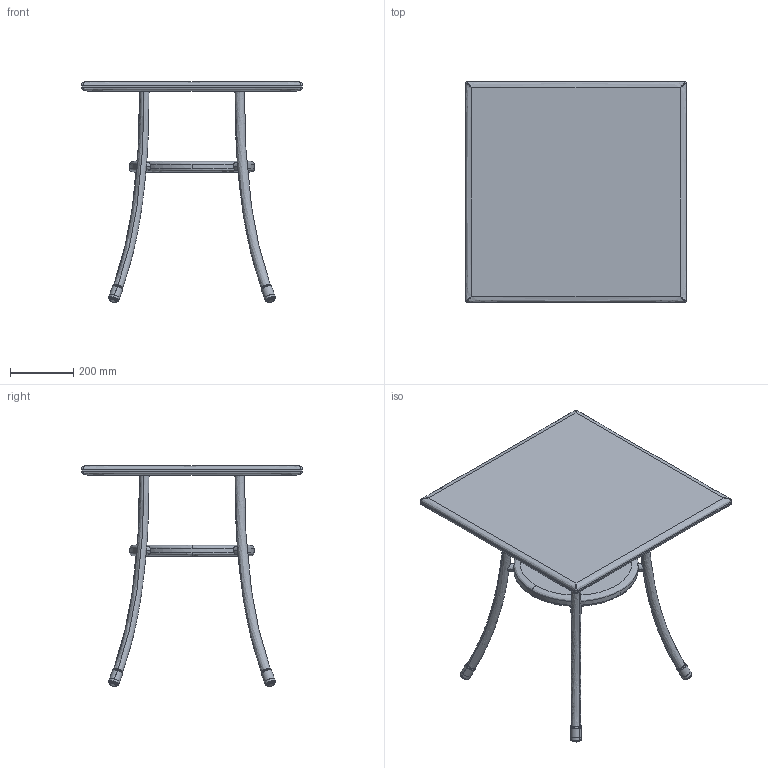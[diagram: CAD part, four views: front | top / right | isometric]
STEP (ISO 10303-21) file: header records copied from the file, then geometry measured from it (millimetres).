
FILE_DESCRIPTION(/* description */ (''),/* implementation_level */ '2;1');
FILE_NAME(/* name */ 'KINOSH~1',/* time_stamp */ '2019-07-19T09:52:32+09:00',/* author */ (''),/* organization */ (''),/* preprocessor_version */ 'ST-DEVELOPER v15',/* originating_system */ '',/* authorisation */ '');
FILE_SCHEMA (('AUTOMOTIVE_DESIGN'));
Length unit declared in the file: millimetre
Products named in the file (1): Document
Bounding box: 700 x 700 x 700.04 mm (x, y, z)
Volume: 6214764.2 mm3; surface area: 1615503.2 mm2
Topology: 13 solids, 14 shells, 174 faces, 358 edges, 196 vertices
Faces by surface type: bspline 142, plane 32
Entity records: 14868 total; most frequent: CARTESIAN_POINT 12805, ORIENTED_EDGE 668, EDGE_CURVE 350, VERTEX_POINT 196, EDGE_LOOP 182, ADVANCED_FACE 174, FACE_OUTER_BOUND 174, B_SPLINE_CURVE_WITH_KNOTS 138
